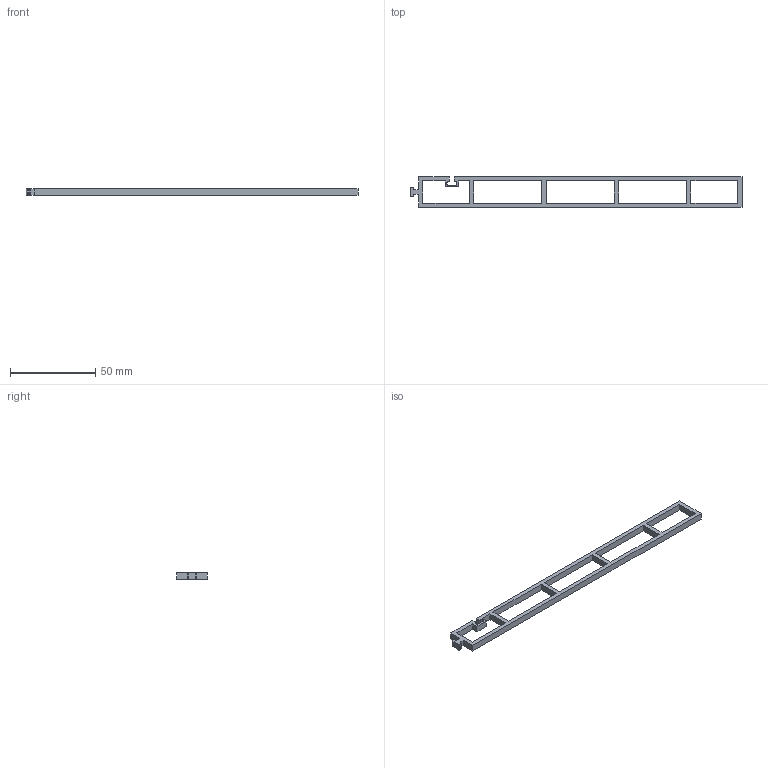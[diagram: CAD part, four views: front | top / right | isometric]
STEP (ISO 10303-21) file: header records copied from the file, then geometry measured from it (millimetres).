
FILE_DESCRIPTION(/* description */ ('Alibre Inc.'),/* implementation_level */ '2;1');
FILE_NAME(/* name */ 'export0',/* time_stamp */ '2009-11-27T20:48:42+01:00',/* author */ (''),/* organization */ (''),/* preprocessor_version */ 'ST-DEVELOPER v10',/* originating_system */ 'Alibre',/* authorisation */ '');
FILE_SCHEMA (('ALIBRE_SCHEMA','CONFIG_CONTROL_DESIGN'));
Length unit declared in the file: centimetre
Products named in the file (2): ID_1
Bounding box: 195 x 18 x 4 mm (x, y, z)
Volume: 4689.2 mm3; surface area: 6070.2 mm2
Topology: 1 solids, 1 shells, 58 faces, 168 edges, 112 vertices
Faces by surface type: plane 46, cylinder 12
Entity records: 4377 total; most frequent: CARTESIAN_POINT 605, DIRECTION 381, ORIENTED_EDGE 336, VECTOR 236, CONSTRAINTPAIRUV 220, REFERENCEDEPENDENTUV 198, LINE 185, EDGE_CURVE 168
